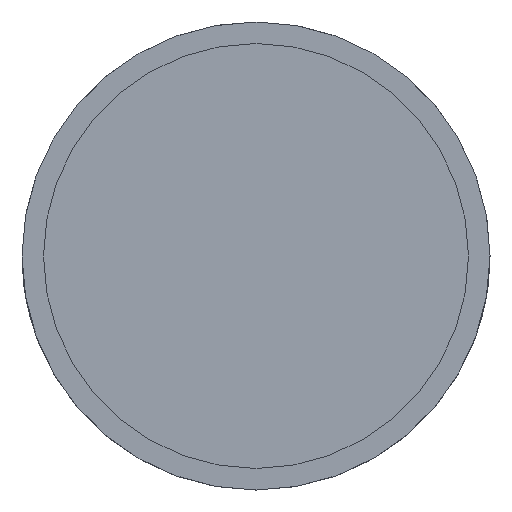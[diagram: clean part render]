
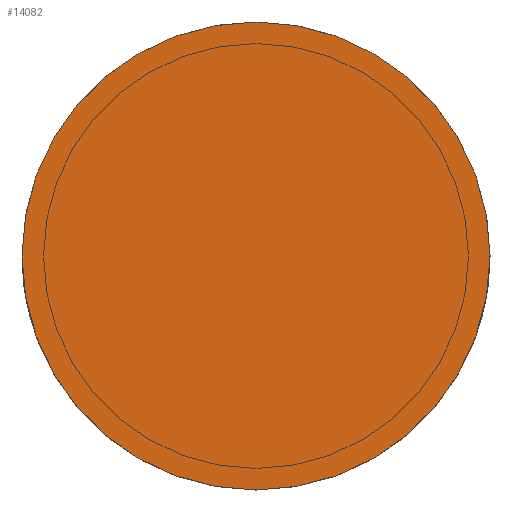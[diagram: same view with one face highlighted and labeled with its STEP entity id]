
A CAD part, left-side view. The second image highlights one B-rep face of the part: STEP entity #14082.
In plain terms, the highlighted planar face has unit normal (-1, 0, 0) as drawn and (0, 0, 1) by its records, which use the part's own axes.
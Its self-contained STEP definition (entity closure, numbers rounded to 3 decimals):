
#5337 = CIRCLE ( 'NONE', #33926, 34.75 ) ;
#5358 = CIRCLE ( 'NONE', #33932, 34.75 ) ;
#7058 = CARTESIAN_POINT ( 'NONE',  ( 0., 0., 64.5 ) ) ;
#7059 = DIRECTION ( 'NONE',  ( 0., 0., 1. ) ) ;
#7060 = DIRECTION ( 'NONE',  ( 1., 0., 0. ) ) ;
#7082 = CARTESIAN_POINT ( 'NONE',  ( 0., 0., 64.5 ) ) ;
#7083 = DIRECTION ( 'NONE',  ( 0., 0., 1. ) ) ;
#7084 = DIRECTION ( 'NONE',  ( 1., 0., 0. ) ) ;
#14082 = ADVANCED_FACE ( 'NONE', ( #29163 ), #31737, .T. ) ;
#14614 = VERTEX_POINT ( 'NONE', #33025 ) ;
#14623 = VERTEX_POINT ( 'NONE', #33034 ) ;
#21271 = EDGE_LOOP ( 'NONE', ( #22639, #22640 ) ) ;
#21755 = EDGE_CURVE ( 'NONE', #14614, #14623, #5337, .T. ) ;
#21764 = EDGE_CURVE ( 'NONE', #14623, #14614, #5358, .T. ) ;
#22639 = ORIENTED_EDGE ( 'NONE', *, *, #21764, .T. ) ;
#22640 = ORIENTED_EDGE ( 'NONE', *, *, #21755, .T. ) ;
#28537 = AXIS2_PLACEMENT_3D ( 'NONE', #31735, #31740, #31741 ) ;
#29163 = FACE_OUTER_BOUND ( 'NONE', #21271, .T. ) ;
#31735 = CARTESIAN_POINT ( 'NONE',  ( 0., 0., 64.5 ) ) ;
#31737 = PLANE ( 'NONE',  #28537 ) ;
#31740 = DIRECTION ( 'NONE',  ( 0., 0., 1. ) ) ;
#31741 = DIRECTION ( 'NONE',  ( 1., 0., 0. ) ) ;
#33025 = CARTESIAN_POINT ( 'NONE',  ( 34.75, 0., 64.5 ) ) ;
#33034 = CARTESIAN_POINT ( 'NONE',  ( -34.75, 0., 64.5 ) ) ;
#33926 = AXIS2_PLACEMENT_3D ( 'NONE', #7058, #7059, #7060 ) ;
#33932 = AXIS2_PLACEMENT_3D ( 'NONE', #7082, #7083, #7084 ) ;
